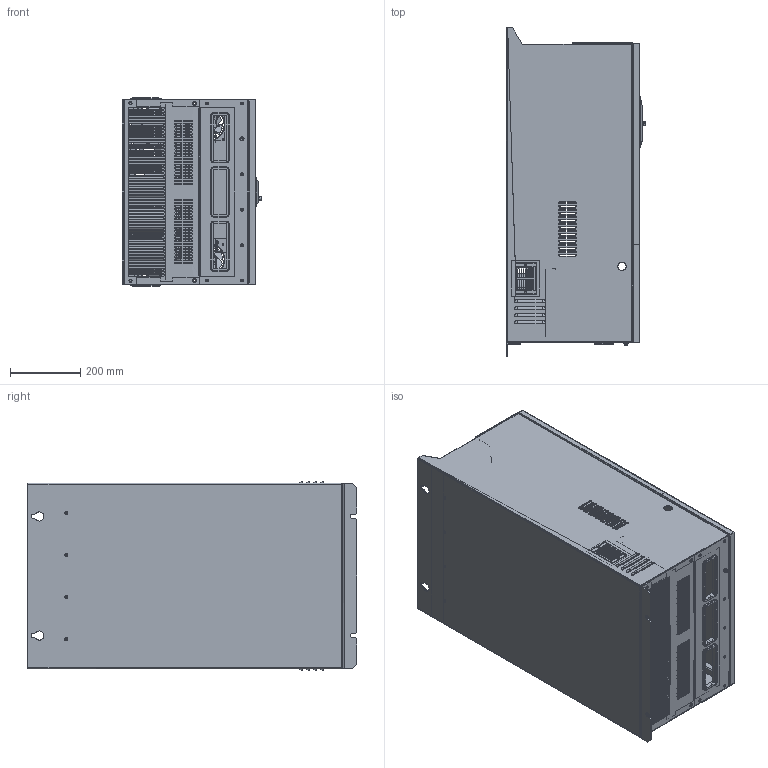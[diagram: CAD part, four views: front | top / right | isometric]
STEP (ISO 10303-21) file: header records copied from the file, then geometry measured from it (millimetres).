
FILE_DESCRIPTION (( 'STEP AP214' ), '1' );
FILE_NAME ('V2000-200KW.STEP', '2024-08-13T06:40:24', ( 'ﾏ珞褄' ), ( '' ), 'SwSTEP 2.0', 'SolidWorks 2022', '' );
FILE_SCHEMA (( 'AUTOMOTIVE_DESIGN' ));
Length unit declared in the file: millimetre
Products named in the file (129): V2000-200KW109.STEP; V2000-200KW52.STEP; V2000-200KW222.STEP; V2000-200KW162.STEP; V2000-200KW63.STEP; V2000-200KW193.STEP; V2000-200KW49.STEP; V2000-200KW227.STEP; V2000-200KW3.STEP; V2000-200KW216.STEP; V2000-200KW168.STEP; V2000-200KW161.STEP; V2000-200KW81.STEP; V2000-200KW213.STEP; V2000-200KW7.STEP; V2000-200KW174.STEP; V2000-200KW242.STEP; V2000-200KW221.STEP; V2000-200KW124.STEP; V2000-200KW25.STEP; V2000-200KW42.STEP; V2000-200KW207.STEP; V2000-200KW152.STEP; V2000-200KW80.STEP; V2000-200KW40.STEP; V2000-200KW164.STEP; V2000-200KW272.STEP; V2000-200KW237.STEP; V2000-200KW141.STEP; V2000-200KW87.STEP; V2000-200KW247.STEP; V2000-200KW201.STEP; V2000-200KW176.STEP; V2000-200KW235.STEP; V2000-200KW35.STEP; V2000-200KW148.STEP; V2000-200KW184.STEP; V2000-200KW218.STEP; V2000-200KW239.STEP; V2000-200KW230.STEP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
Assembly tree (128 placements, depth 3):
  V2000-200KW
    V2000-200KW.STEP
      V2000-200KW3.STEP
      V2000-200KW6.STEP
      V2000-200KW7.STEP
      V2000-200KW9.STEP
      V2000-200KW12.STEP
      V2000-200KW15.STEP
      V2000-200KW16.STEP
      V2000-200KW18.STEP
      V2000-200KW23.STEP
      V2000-200KW25.STEP
      V2000-200KW33.STEP
      V2000-200KW35.STEP
      V2000-200KW37.STEP
      V2000-200KW40.STEP
      V2000-200KW41.STEP
      V2000-200KW42.STEP
      V2000-200KW48.STEP
      V2000-200KW49.STEP
      V2000-200KW52.STEP
      V2000-200KW54.STEP
      V2000-200KW55.STEP
      V2000-200KW63.STEP
      V2000-200KW69.STEP
      V2000-200KW70.STEP
      V2000-200KW71.STEP
      V2000-200KW72.STEP
      V2000-200KW73.STEP
      V2000-200KW75.STEP
      V2000-200KW77.STEP
      V2000-200KW78.STEP
      V2000-200KW79.STEP
      V2000-200KW80.STEP
      V2000-200KW81.STEP
      V2000-200KW86.STEP
      V2000-200KW87.STEP
      V2000-200KW91.STEP
      V2000-200KW92.STEP
      V2000-200KW99.STEP
      V2000-200KW100.STEP
      V2000-200KW101.STEP
      V2000-200KW102.STEP
      V2000-200KW103.STEP
      V2000-200KW105.STEP
      V2000-200KW106.STEP
      V2000-200KW108.STEP
      V2000-200KW109.STEP
      V2000-200KW110.STEP
      V2000-200KW111.STEP
      V2000-200KW115.STEP
      V2000-200KW123.STEP
      V2000-200KW124.STEP
      V2000-200KW128.STEP
      V2000-200KW130.STEP
      V2000-200KW134.STEP
      V2000-200KW136.STEP
      V2000-200KW137.STEP
      V2000-200KW140.STEP
      V2000-200KW141.STEP
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Bounding box: 397.39 x 940.99 x 538 mm (x, y, z)
Surface area: 6534796.2 mm2 (no closed solid volume)
Topology: 0 solids, 131 shells, 1745 faces, 9353 edges, 7577 vertices
Faces by surface type: cylinder 851, plane 745, bspline 117, cone 32
Entity records: 166786 total; most frequent: CARTESIAN_POINT 102472, ORIENTED_EDGE 13822, EDGE_CURVE 9346, B_SPLINE_CURVE_WITH_KNOTS 9170, VERTEX_POINT 7577, DIRECTION 3518, EDGE_LOOP 2949, AXIS2_PLACEMENT_3D 1759
